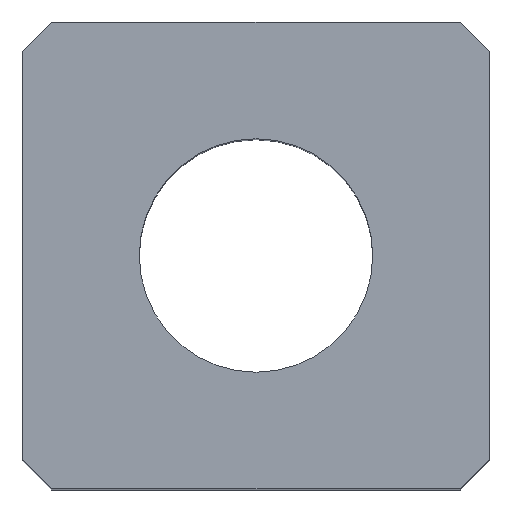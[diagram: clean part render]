
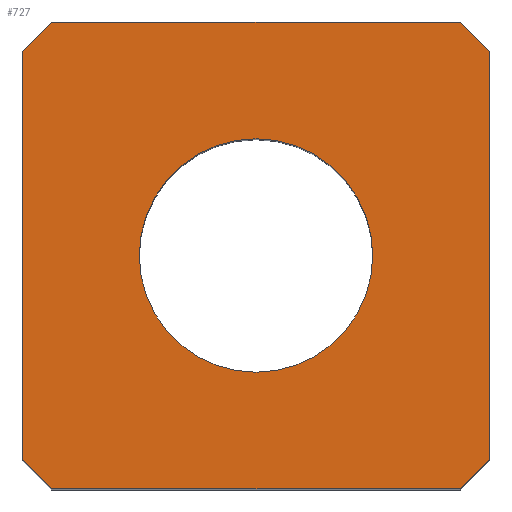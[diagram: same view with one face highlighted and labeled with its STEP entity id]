
A CAD part, top view. The second image highlights one B-rep face of the part: STEP entity #727.
In plain terms, the highlighted planar face has unit normal (0, 0, 1).
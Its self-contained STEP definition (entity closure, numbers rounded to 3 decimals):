
#24 = VERTEX_POINT('',#25);
#25 = CARTESIAN_POINT('',(-8.,7.,20.));
#32 = PLANE('',#33);
#33 = AXIS2_PLACEMENT_3D('',#34,#35,#36);
#34 = CARTESIAN_POINT('',(-8.,7.,0.));
#35 = DIRECTION('',(1.,0.,-0.));
#36 = DIRECTION('',(0.,-1.,0.));
#44 = PLANE('',#45);
#45 = AXIS2_PLACEMENT_3D('',#46,#47,#48);
#46 = CARTESIAN_POINT('',(-7.,8.,0.));
#47 = DIRECTION('',(0.707,-0.707,0.));
#48 = DIRECTION('',(-0.707,-0.707,0.));
#56 = EDGE_CURVE('',#24,#57,#59,.T.);
#57 = VERTEX_POINT('',#58);
#58 = CARTESIAN_POINT('',(-8.,-7.,20.));
#59 = SURFACE_CURVE('',#60,(#64,#71),.PCURVE_S1.);
#60 = LINE('',#61,#62);
#61 = CARTESIAN_POINT('',(-8.,7.,20.));
#62 = VECTOR('',#63,1.);
#63 = DIRECTION('',(0.,-1.,0.));
#64 = PCURVE('',#32,#65);
#65 = DEFINITIONAL_REPRESENTATION('',(#66),#70);
#66 = LINE('',#67,#68);
#67 = CARTESIAN_POINT('',(0.,-20.));
#68 = VECTOR('',#69,1.);
#69 = DIRECTION('',(1.,0.));
#70 = ( GEOMETRIC_REPRESENTATION_CONTEXT(2) 
PARAMETRIC_REPRESENTATION_CONTEXT() REPRESENTATION_CONTEXT('2D SPACE',''
  ) );
#71 = PCURVE('',#72,#77);
#72 = PLANE('',#73);
#73 = AXIS2_PLACEMENT_3D('',#74,#75,#76);
#74 = CARTESIAN_POINT('',(0.,0.,20.));
#75 = DIRECTION('',(0.,0.,1.));
#76 = DIRECTION('',(1.,0.,-0.));
#77 = DEFINITIONAL_REPRESENTATION('',(#78),#82);
#78 = LINE('',#79,#80);
#79 = CARTESIAN_POINT('',(-8.,7.));
#80 = VECTOR('',#81,1.);
#81 = DIRECTION('',(0.,-1.));
#82 = ( GEOMETRIC_REPRESENTATION_CONTEXT(2) 
PARAMETRIC_REPRESENTATION_CONTEXT() REPRESENTATION_CONTEXT('2D SPACE',''
  ) );
#100 = PLANE('',#101);
#101 = AXIS2_PLACEMENT_3D('',#102,#103,#104);
#102 = CARTESIAN_POINT('',(-8.,-7.,0.));
#103 = DIRECTION('',(0.707,0.707,-0.));
#104 = DIRECTION('',(0.707,-0.707,0.));
#142 = EDGE_CURVE('',#57,#143,#145,.T.);
#143 = VERTEX_POINT('',#144);
#144 = CARTESIAN_POINT('',(-7.,-8.,20.));
#145 = SURFACE_CURVE('',#146,(#150,#157),.PCURVE_S1.);
#146 = LINE('',#147,#148);
#147 = CARTESIAN_POINT('',(-8.,-7.,20.));
#148 = VECTOR('',#149,1.);
#149 = DIRECTION('',(0.707,-0.707,0.));
#150 = PCURVE('',#100,#151);
#151 = DEFINITIONAL_REPRESENTATION('',(#152),#156);
#152 = LINE('',#153,#154);
#153 = CARTESIAN_POINT('',(0.,-20.));
#154 = VECTOR('',#155,1.);
#155 = DIRECTION('',(1.,0.));
#156 = ( GEOMETRIC_REPRESENTATION_CONTEXT(2) 
PARAMETRIC_REPRESENTATION_CONTEXT() REPRESENTATION_CONTEXT('2D SPACE',''
  ) );
#157 = PCURVE('',#72,#158);
#158 = DEFINITIONAL_REPRESENTATION('',(#159),#163);
#159 = LINE('',#160,#161);
#160 = CARTESIAN_POINT('',(-8.,-7.));
#161 = VECTOR('',#162,1.);
#162 = DIRECTION('',(0.707,-0.707));
#163 = ( GEOMETRIC_REPRESENTATION_CONTEXT(2) 
PARAMETRIC_REPRESENTATION_CONTEXT() REPRESENTATION_CONTEXT('2D SPACE',''
  ) );
#181 = PLANE('',#182);
#182 = AXIS2_PLACEMENT_3D('',#183,#184,#185);
#183 = CARTESIAN_POINT('',(-7.,-8.,0.));
#184 = DIRECTION('',(0.,1.,0.));
#185 = DIRECTION('',(1.,0.,0.));
#218 = EDGE_CURVE('',#143,#219,#221,.T.);
#219 = VERTEX_POINT('',#220);
#220 = CARTESIAN_POINT('',(7.,-8.,20.));
#221 = SURFACE_CURVE('',#222,(#226,#233),.PCURVE_S1.);
#222 = LINE('',#223,#224);
#223 = CARTESIAN_POINT('',(-7.,-8.,20.));
#224 = VECTOR('',#225,1.);
#225 = DIRECTION('',(1.,0.,0.));
#226 = PCURVE('',#181,#227);
#227 = DEFINITIONAL_REPRESENTATION('',(#228),#232);
#228 = LINE('',#229,#230);
#229 = CARTESIAN_POINT('',(0.,-20.));
#230 = VECTOR('',#231,1.);
#231 = DIRECTION('',(1.,0.));
#232 = ( GEOMETRIC_REPRESENTATION_CONTEXT(2) 
PARAMETRIC_REPRESENTATION_CONTEXT() REPRESENTATION_CONTEXT('2D SPACE',''
  ) );
#233 = PCURVE('',#72,#234);
#234 = DEFINITIONAL_REPRESENTATION('',(#235),#239);
#235 = LINE('',#236,#237);
#236 = CARTESIAN_POINT('',(-7.,-8.));
#237 = VECTOR('',#238,1.);
#238 = DIRECTION('',(1.,0.));
#239 = ( GEOMETRIC_REPRESENTATION_CONTEXT(2) 
PARAMETRIC_REPRESENTATION_CONTEXT() REPRESENTATION_CONTEXT('2D SPACE',''
  ) );
#257 = PLANE('',#258);
#258 = AXIS2_PLACEMENT_3D('',#259,#260,#261);
#259 = CARTESIAN_POINT('',(7.,-8.,0.));
#260 = DIRECTION('',(-0.707,0.707,0.));
#261 = DIRECTION('',(0.707,0.707,0.));
#294 = EDGE_CURVE('',#219,#295,#297,.T.);
#295 = VERTEX_POINT('',#296);
#296 = CARTESIAN_POINT('',(8.,-7.,20.));
#297 = SURFACE_CURVE('',#298,(#302,#309),.PCURVE_S1.);
#298 = LINE('',#299,#300);
#299 = CARTESIAN_POINT('',(7.,-8.,20.));
#300 = VECTOR('',#301,1.);
#301 = DIRECTION('',(0.707,0.707,0.));
#302 = PCURVE('',#257,#303);
#303 = DEFINITIONAL_REPRESENTATION('',(#304),#308);
#304 = LINE('',#305,#306);
#305 = CARTESIAN_POINT('',(0.,-20.));
#306 = VECTOR('',#307,1.);
#307 = DIRECTION('',(1.,0.));
#308 = ( GEOMETRIC_REPRESENTATION_CONTEXT(2) 
PARAMETRIC_REPRESENTATION_CONTEXT() REPRESENTATION_CONTEXT('2D SPACE',''
  ) );
#309 = PCURVE('',#72,#310);
#310 = DEFINITIONAL_REPRESENTATION('',(#311),#315);
#311 = LINE('',#312,#313);
#312 = CARTESIAN_POINT('',(7.,-8.));
#313 = VECTOR('',#314,1.);
#314 = DIRECTION('',(0.707,0.707));
#315 = ( GEOMETRIC_REPRESENTATION_CONTEXT(2) 
PARAMETRIC_REPRESENTATION_CONTEXT() REPRESENTATION_CONTEXT('2D SPACE',''
  ) );
#333 = PLANE('',#334);
#334 = AXIS2_PLACEMENT_3D('',#335,#336,#337);
#335 = CARTESIAN_POINT('',(8.,-7.,0.));
#336 = DIRECTION('',(-1.,0.,0.));
#337 = DIRECTION('',(0.,1.,0.));
#370 = EDGE_CURVE('',#295,#371,#373,.T.);
#371 = VERTEX_POINT('',#372);
#372 = CARTESIAN_POINT('',(8.,7.,20.));
#373 = SURFACE_CURVE('',#374,(#378,#385),.PCURVE_S1.);
#374 = LINE('',#375,#376);
#375 = CARTESIAN_POINT('',(8.,-7.,20.));
#376 = VECTOR('',#377,1.);
#377 = DIRECTION('',(0.,1.,0.));
#378 = PCURVE('',#333,#379);
#379 = DEFINITIONAL_REPRESENTATION('',(#380),#384);
#380 = LINE('',#381,#382);
#381 = CARTESIAN_POINT('',(0.,-20.));
#382 = VECTOR('',#383,1.);
#383 = DIRECTION('',(1.,0.));
#384 = ( GEOMETRIC_REPRESENTATION_CONTEXT(2) 
PARAMETRIC_REPRESENTATION_CONTEXT() REPRESENTATION_CONTEXT('2D SPACE',''
  ) );
#385 = PCURVE('',#72,#386);
#386 = DEFINITIONAL_REPRESENTATION('',(#387),#391);
#387 = LINE('',#388,#389);
#388 = CARTESIAN_POINT('',(8.,-7.));
#389 = VECTOR('',#390,1.);
#390 = DIRECTION('',(0.,1.));
#391 = ( GEOMETRIC_REPRESENTATION_CONTEXT(2) 
PARAMETRIC_REPRESENTATION_CONTEXT() REPRESENTATION_CONTEXT('2D SPACE',''
  ) );
#409 = PLANE('',#410);
#410 = AXIS2_PLACEMENT_3D('',#411,#412,#413);
#411 = CARTESIAN_POINT('',(8.,7.,0.));
#412 = DIRECTION('',(-0.707,-0.707,0.));
#413 = DIRECTION('',(-0.707,0.707,0.));
#446 = EDGE_CURVE('',#371,#447,#449,.T.);
#447 = VERTEX_POINT('',#448);
#448 = CARTESIAN_POINT('',(7.,8.,20.));
#449 = SURFACE_CURVE('',#450,(#454,#461),.PCURVE_S1.);
#450 = LINE('',#451,#452);
#451 = CARTESIAN_POINT('',(8.,7.,20.));
#452 = VECTOR('',#453,1.);
#453 = DIRECTION('',(-0.707,0.707,0.));
#454 = PCURVE('',#409,#455);
#455 = DEFINITIONAL_REPRESENTATION('',(#456),#460);
#456 = LINE('',#457,#458);
#457 = CARTESIAN_POINT('',(0.,-20.));
#458 = VECTOR('',#459,1.);
#459 = DIRECTION('',(1.,0.));
#460 = ( GEOMETRIC_REPRESENTATION_CONTEXT(2) 
PARAMETRIC_REPRESENTATION_CONTEXT() REPRESENTATION_CONTEXT('2D SPACE',''
  ) );
#461 = PCURVE('',#72,#462);
#462 = DEFINITIONAL_REPRESENTATION('',(#463),#467);
#463 = LINE('',#464,#465);
#464 = CARTESIAN_POINT('',(8.,7.));
#465 = VECTOR('',#466,1.);
#466 = DIRECTION('',(-0.707,0.707));
#467 = ( GEOMETRIC_REPRESENTATION_CONTEXT(2) 
PARAMETRIC_REPRESENTATION_CONTEXT() REPRESENTATION_CONTEXT('2D SPACE',''
  ) );
#485 = PLANE('',#486);
#486 = AXIS2_PLACEMENT_3D('',#487,#488,#489);
#487 = CARTESIAN_POINT('',(7.,8.,0.));
#488 = DIRECTION('',(0.,-1.,0.));
#489 = DIRECTION('',(-1.,0.,0.));
#522 = EDGE_CURVE('',#447,#523,#525,.T.);
#523 = VERTEX_POINT('',#524);
#524 = CARTESIAN_POINT('',(-7.,8.,20.));
#525 = SURFACE_CURVE('',#526,(#530,#537),.PCURVE_S1.);
#526 = LINE('',#527,#528);
#527 = CARTESIAN_POINT('',(7.,8.,20.));
#528 = VECTOR('',#529,1.);
#529 = DIRECTION('',(-1.,0.,0.));
#530 = PCURVE('',#485,#531);
#531 = DEFINITIONAL_REPRESENTATION('',(#532),#536);
#532 = LINE('',#533,#534);
#533 = CARTESIAN_POINT('',(0.,-20.));
#534 = VECTOR('',#535,1.);
#535 = DIRECTION('',(1.,0.));
#536 = ( GEOMETRIC_REPRESENTATION_CONTEXT(2) 
PARAMETRIC_REPRESENTATION_CONTEXT() REPRESENTATION_CONTEXT('2D SPACE',''
  ) );
#537 = PCURVE('',#72,#538);
#538 = DEFINITIONAL_REPRESENTATION('',(#539),#543);
#539 = LINE('',#540,#541);
#540 = CARTESIAN_POINT('',(7.,8.));
#541 = VECTOR('',#542,1.);
#542 = DIRECTION('',(-1.,0.));
#543 = ( GEOMETRIC_REPRESENTATION_CONTEXT(2) 
PARAMETRIC_REPRESENTATION_CONTEXT() REPRESENTATION_CONTEXT('2D SPACE',''
  ) );
#593 = EDGE_CURVE('',#523,#24,#594,.T.);
#594 = SURFACE_CURVE('',#595,(#599,#606),.PCURVE_S1.);
#595 = LINE('',#596,#597);
#596 = CARTESIAN_POINT('',(-7.,8.,20.));
#597 = VECTOR('',#598,1.);
#598 = DIRECTION('',(-0.707,-0.707,0.));
#599 = PCURVE('',#44,#600);
#600 = DEFINITIONAL_REPRESENTATION('',(#601),#605);
#601 = LINE('',#602,#603);
#602 = CARTESIAN_POINT('',(0.,-20.));
#603 = VECTOR('',#604,1.);
#604 = DIRECTION('',(1.,0.));
#605 = ( GEOMETRIC_REPRESENTATION_CONTEXT(2) 
PARAMETRIC_REPRESENTATION_CONTEXT() REPRESENTATION_CONTEXT('2D SPACE',''
  ) );
#606 = PCURVE('',#72,#607);
#607 = DEFINITIONAL_REPRESENTATION('',(#608),#612);
#608 = LINE('',#609,#610);
#609 = CARTESIAN_POINT('',(-7.,8.));
#610 = VECTOR('',#611,1.);
#611 = DIRECTION('',(-0.707,-0.707));
#612 = ( GEOMETRIC_REPRESENTATION_CONTEXT(2) 
PARAMETRIC_REPRESENTATION_CONTEXT() REPRESENTATION_CONTEXT('2D SPACE',''
  ) );
#642 = VERTEX_POINT('',#643);
#643 = CARTESIAN_POINT('',(4.,0.,20.));
#650 = CYLINDRICAL_SURFACE('',#651,4.);
#651 = AXIS2_PLACEMENT_3D('',#652,#653,#654);
#652 = CARTESIAN_POINT('',(0.,0.,0.));
#653 = DIRECTION('',(-0.,-0.,-1.));
#654 = DIRECTION('',(1.,0.,0.));
#669 = EDGE_CURVE('',#642,#642,#670,.T.);
#670 = SURFACE_CURVE('',#671,(#676,#683),.PCURVE_S1.);
#671 = CIRCLE('',#672,4.);
#672 = AXIS2_PLACEMENT_3D('',#673,#674,#675);
#673 = CARTESIAN_POINT('',(0.,0.,20.));
#674 = DIRECTION('',(0.,0.,1.));
#675 = DIRECTION('',(1.,0.,0.));
#676 = PCURVE('',#650,#677);
#677 = DEFINITIONAL_REPRESENTATION('',(#678),#682);
#678 = LINE('',#679,#680);
#679 = CARTESIAN_POINT('',(-0.,-20.));
#680 = VECTOR('',#681,1.);
#681 = DIRECTION('',(-1.,0.));
#682 = ( GEOMETRIC_REPRESENTATION_CONTEXT(2) 
PARAMETRIC_REPRESENTATION_CONTEXT() REPRESENTATION_CONTEXT('2D SPACE',''
  ) );
#683 = PCURVE('',#72,#684);
#684 = DEFINITIONAL_REPRESENTATION('',(#685),#689);
#685 = CIRCLE('',#686,4.);
#686 = AXIS2_PLACEMENT_2D('',#687,#688);
#687 = CARTESIAN_POINT('',(0.,0.));
#688 = DIRECTION('',(1.,0.));
#689 = ( GEOMETRIC_REPRESENTATION_CONTEXT(2) 
PARAMETRIC_REPRESENTATION_CONTEXT() REPRESENTATION_CONTEXT('2D SPACE',''
  ) );
#727 = ADVANCED_FACE('',(#728,#738),#72,.T.);
#728 = FACE_BOUND('',#729,.T.);
#729 = EDGE_LOOP('',(#730,#731,#732,#733,#734,#735,#736,#737));
#730 = ORIENTED_EDGE('',*,*,#56,.T.);
#731 = ORIENTED_EDGE('',*,*,#142,.T.);
#732 = ORIENTED_EDGE('',*,*,#218,.T.);
#733 = ORIENTED_EDGE('',*,*,#294,.T.);
#734 = ORIENTED_EDGE('',*,*,#370,.T.);
#735 = ORIENTED_EDGE('',*,*,#446,.T.);
#736 = ORIENTED_EDGE('',*,*,#522,.T.);
#737 = ORIENTED_EDGE('',*,*,#593,.T.);
#738 = FACE_BOUND('',#739,.F.);
#739 = EDGE_LOOP('',(#740));
#740 = ORIENTED_EDGE('',*,*,#669,.T.);
